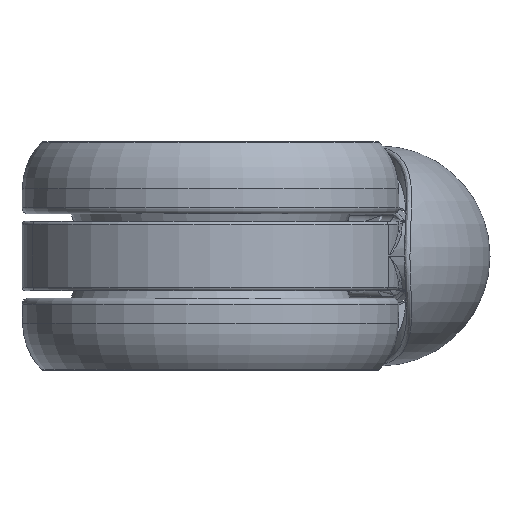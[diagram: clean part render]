
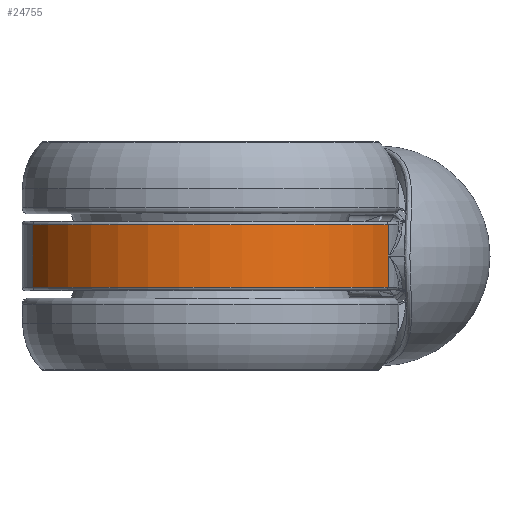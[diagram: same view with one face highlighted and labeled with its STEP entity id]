
A CAD part, front view. The second image highlights one B-rep face of the part: STEP entity #24755.
In plain terms, the highlighted cylindrical face has radius 30.924 mm (diameter 61.847 mm), a partial arc.
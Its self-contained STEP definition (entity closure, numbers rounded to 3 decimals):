
#721 = FACE_OUTER_BOUND ( 'NONE', #18791, .T. ) ;
#1647 = VERTEX_POINT ( 'NONE', #18264 ) ;
#1807 = CARTESIAN_POINT ( 'NONE',  ( -28.273, -8.602, 12.5 ) ) ;
#2502 = EDGE_CURVE ( 'NONE', #25376, #12053, #7738, .T. ) ;
#2616 = DIRECTION ( 'NONE',  ( -1., 0., 0. ) ) ;
#2753 = ORIENTED_EDGE ( 'NONE', *, *, #2502, .T. ) ;
#2947 = CARTESIAN_POINT ( 'NONE',  ( 28.273, -8.602, 12.5 ) ) ;
#3490 = VECTOR ( 'NONE', #12077, 1000. ) ;
#4952 = AXIS2_PLACEMENT_3D ( 'NONE', #20961, #16509, #2616 ) ;
#6543 = DIRECTION ( 'NONE',  ( -1., 0., 0. ) ) ;
#7018 = CARTESIAN_POINT ( 'NONE',  ( -28.273, -8.602, -5. ) ) ;
#7738 = LINE ( 'NONE', #1807, #3490 ) ;
#10104 = VERTEX_POINT ( 'NONE', #14004 ) ;
#10928 = LINE ( 'NONE', #2947, #11990 ) ;
#11828 = AXIS2_PLACEMENT_3D ( 'NONE', #19224, #13029, #6543 ) ;
#11865 = AXIS2_PLACEMENT_3D ( 'NONE', #21963, #15873, #22094 ) ;
#11990 = VECTOR ( 'NONE', #25597, 1000. ) ;
#12053 = VERTEX_POINT ( 'NONE', #7018 ) ;
#12077 = DIRECTION ( 'NONE',  ( 0., 0., -1. ) ) ;
#12113 = EDGE_CURVE ( 'NONE', #1647, #10104, #10928, .T. ) ;
#12265 = CIRCLE ( 'NONE', #4952, 30.924 ) ;
#13029 = DIRECTION ( 'NONE',  ( 0., 0., -1. ) ) ;
#14004 = CARTESIAN_POINT ( 'NONE',  ( 28.273, -8.602, 5. ) ) ;
#15713 = CIRCLE ( 'NONE', #11865, 30.924 ) ;
#15873 = DIRECTION ( 'NONE',  ( 0., 0., -1. ) ) ;
#16509 = DIRECTION ( 'NONE',  ( 0., 0., 1. ) ) ;
#16962 = ORIENTED_EDGE ( 'NONE', *, *, #25845, .T. ) ;
#17052 = CYLINDRICAL_SURFACE ( 'NONE', #11828, 30.924 ) ;
#18264 = CARTESIAN_POINT ( 'NONE',  ( 28.273, -8.602, -5. ) ) ;
#18791 = EDGE_LOOP ( 'NONE', ( #2753, #16962, #20958, #22474 ) ) ;
#19224 = CARTESIAN_POINT ( 'NONE',  ( 0., 3.924, 12.5 ) ) ;
#20958 = ORIENTED_EDGE ( 'NONE', *, *, #12113, .T. ) ;
#20961 = CARTESIAN_POINT ( 'NONE',  ( 0., 3.924, -5. ) ) ;
#21186 = CARTESIAN_POINT ( 'NONE',  ( -28.273, -8.602, 5. ) ) ;
#21963 = CARTESIAN_POINT ( 'NONE',  ( 0., 3.924, 5. ) ) ;
#22094 = DIRECTION ( 'NONE',  ( 1., 0., 0. ) ) ;
#22474 = ORIENTED_EDGE ( 'NONE', *, *, #26349, .T. ) ;
#24755 = ADVANCED_FACE ( 'NONE', ( #721 ), #17052, .T. ) ;
#25376 = VERTEX_POINT ( 'NONE', #21186 ) ;
#25597 = DIRECTION ( 'NONE',  ( 0., 0., 1. ) ) ;
#25845 = EDGE_CURVE ( 'NONE', #12053, #1647, #12265, .T. ) ;
#26349 = EDGE_CURVE ( 'NONE', #10104, #25376, #15713, .T. ) ;
